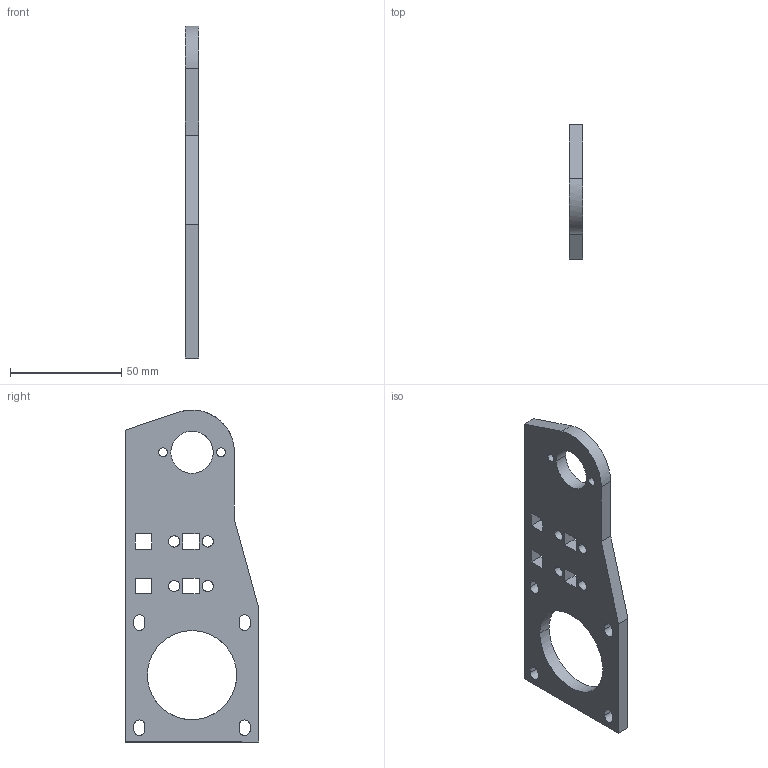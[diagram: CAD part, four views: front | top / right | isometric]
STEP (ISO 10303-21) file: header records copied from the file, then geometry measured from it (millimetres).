
FILE_DESCRIPTION(/* description */ (''),/* implementation_level */ '2;1');
FILE_NAME(/* name */ '6.y-drive#6.1#la-mpk-5',/* time_stamp */ '2014-12-01T20:13:57+01:00',/* author */ (''),/* organization */ (''),/* preprocessor_version */ 'ST-DEVELOPER v14',/* originating_system */ '',/* authorisation */ '');
FILE_SCHEMA (('AUTOMOTIVE_DESIGN'));
Length unit declared in the file: millimetre
Products named in the file (1): Document
Bounding box: 6 x 60 x 149 mm (x, y, z)
Volume: 36050.6 mm3; surface area: 17178.5 mm2
Topology: 1 solids, 1 shells, 57 faces, 165 edges, 110 vertices
Faces by surface type: plane 31, bspline 26
Entity records: 3981 total; most frequent: CARTESIAN_POINT 1815, B_SPLINE_CURVE_WITH_KNOTS 373, ORIENTED_EDGE 330, PCURVE 330, DEFINITIONAL_REPRESENTATION 330, SURFACE_CURVE 165, EDGE_CURVE 165, VERTEX_POINT 110
